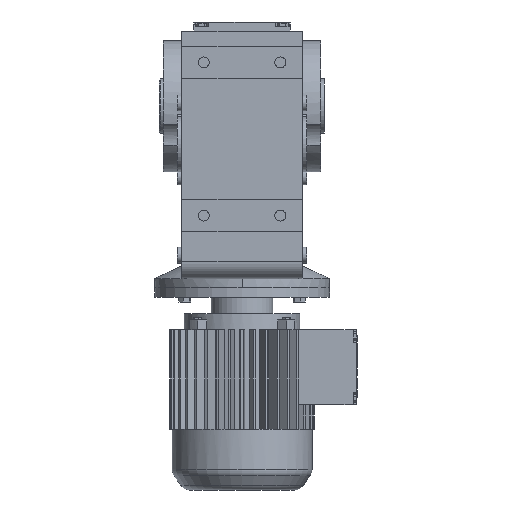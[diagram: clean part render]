
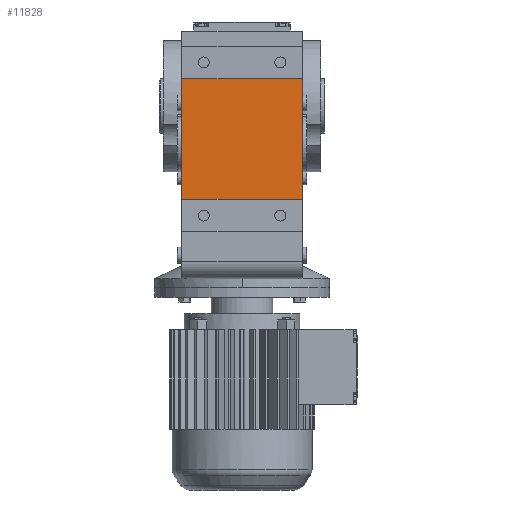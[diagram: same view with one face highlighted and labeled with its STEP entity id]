
A CAD part, front view. The second image highlights one B-rep face of the part: STEP entity #11828.
In plain terms, the highlighted planar face has unit normal (0, -1, 0).
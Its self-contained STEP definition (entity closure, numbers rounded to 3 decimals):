
#2112 = PLANE('',#2113);
#2113 = AXIS2_PLACEMENT_3D('',#2114,#2115,#2116);
#2114 = CARTESIAN_POINT('',(-55.,-92.08,-141.7));
#2115 = DIRECTION('',(-1.,0.,0.));
#2116 = DIRECTION('',(0.,0.,1.));
#4840 = VERTEX_POINT('',#4841);
#4841 = CARTESIAN_POINT('',(-55.,-108.08,-85.));
#4855 = PLANE('',#4856);
#4856 = AXIS2_PLACEMENT_3D('',#4857,#4858,#4859);
#4857 = CARTESIAN_POINT('',(-55.,-108.08,-85.));
#4858 = DIRECTION('',(0.,0.,1.));
#4859 = DIRECTION('',(1.,0.,0.));
#4867 = EDGE_CURVE('',#4868,#4840,#4870,.T.);
#4868 = VERTEX_POINT('',#4869);
#4869 = CARTESIAN_POINT('',(-55.,-108.08,25.));
#4870 = SURFACE_CURVE('',#4871,(#4875,#4882),.PCURVE_S1.);
#4871 = LINE('',#4872,#4873);
#4872 = CARTESIAN_POINT('',(-55.,-108.08,25.));
#4873 = VECTOR('',#4874,1.);
#4874 = DIRECTION('',(0.,0.,-1.));
#4875 = PCURVE('',#2112,#4876);
#4876 = DEFINITIONAL_REPRESENTATION('',(#4877),#4881);
#4877 = LINE('',#4878,#4879);
#4878 = CARTESIAN_POINT('',(166.7,-16.));
#4879 = VECTOR('',#4880,1.);
#4880 = DIRECTION('',(-1.,0.));
#4881 = ( GEOMETRIC_REPRESENTATION_CONTEXT(2) 
PARAMETRIC_REPRESENTATION_CONTEXT() REPRESENTATION_CONTEXT('2D SPACE',''
  ) );
#4882 = PCURVE('',#4883,#4888);
#4883 = PLANE('',#4884);
#4884 = AXIS2_PLACEMENT_3D('',#4885,#4886,#4887);
#4885 = CARTESIAN_POINT('',(-55.,-108.08,25.));
#4886 = DIRECTION('',(0.,-1.,0.));
#4887 = DIRECTION('',(0.,0.,-1.));
#4888 = DEFINITIONAL_REPRESENTATION('',(#4889),#4893);
#4889 = LINE('',#4890,#4891);
#4890 = CARTESIAN_POINT('',(0.,0.));
#4891 = VECTOR('',#4892,1.);
#4892 = DIRECTION('',(1.,0.));
#4893 = ( GEOMETRIC_REPRESENTATION_CONTEXT(2) 
PARAMETRIC_REPRESENTATION_CONTEXT() REPRESENTATION_CONTEXT('2D SPACE',''
  ) );
#4911 = PLANE('',#4912);
#4912 = AXIS2_PLACEMENT_3D('',#4913,#4914,#4915);
#4913 = CARTESIAN_POINT('',(-55.,-108.08,25.));
#4914 = DIRECTION('',(0.,0.,-1.));
#4915 = DIRECTION('',(-1.,0.,0.));
#10088 = PLANE('',#10089);
#10089 = AXIS2_PLACEMENT_3D('',#10090,#10091,#10092);
#10090 = CARTESIAN_POINT('',(55.,-92.08,-141.7));
#10091 = DIRECTION('',(-1.,0.,0.));
#10092 = DIRECTION('',(0.,0.,1.));
#11221 = VERTEX_POINT('',#11222);
#11222 = CARTESIAN_POINT('',(55.,-108.08,-85.));
#11243 = EDGE_CURVE('',#4840,#11221,#11244,.T.);
#11244 = SURFACE_CURVE('',#11245,(#11249,#11256),.PCURVE_S1.);
#11245 = LINE('',#11246,#11247);
#11246 = CARTESIAN_POINT('',(-55.,-108.08,-85.));
#11247 = VECTOR('',#11248,1.);
#11248 = DIRECTION('',(1.,0.,0.));
#11249 = PCURVE('',#4855,#11250);
#11250 = DEFINITIONAL_REPRESENTATION('',(#11251),#11255);
#11251 = LINE('',#11252,#11253);
#11252 = CARTESIAN_POINT('',(0.,0.));
#11253 = VECTOR('',#11254,1.);
#11254 = DIRECTION('',(1.,0.));
#11255 = ( GEOMETRIC_REPRESENTATION_CONTEXT(2) 
PARAMETRIC_REPRESENTATION_CONTEXT() REPRESENTATION_CONTEXT('2D SPACE',''
  ) );
#11256 = PCURVE('',#4883,#11257);
#11257 = DEFINITIONAL_REPRESENTATION('',(#11258),#11262);
#11258 = LINE('',#11259,#11260);
#11259 = CARTESIAN_POINT('',(110.,0.));
#11260 = VECTOR('',#11261,1.);
#11261 = DIRECTION('',(0.,1.));
#11262 = ( GEOMETRIC_REPRESENTATION_CONTEXT(2) 
PARAMETRIC_REPRESENTATION_CONTEXT() REPRESENTATION_CONTEXT('2D SPACE',''
  ) );
#11618 = EDGE_CURVE('',#4868,#11619,#11621,.T.);
#11619 = VERTEX_POINT('',#11620);
#11620 = CARTESIAN_POINT('',(55.,-108.08,25.));
#11621 = SURFACE_CURVE('',#11622,(#11626,#11633),.PCURVE_S1.);
#11622 = LINE('',#11623,#11624);
#11623 = CARTESIAN_POINT('',(-55.,-108.08,25.));
#11624 = VECTOR('',#11625,1.);
#11625 = DIRECTION('',(1.,0.,0.));
#11626 = PCURVE('',#4911,#11627);
#11627 = DEFINITIONAL_REPRESENTATION('',(#11628),#11632);
#11628 = LINE('',#11629,#11630);
#11629 = CARTESIAN_POINT('',(0.,0.));
#11630 = VECTOR('',#11631,1.);
#11631 = DIRECTION('',(-1.,0.));
#11632 = ( GEOMETRIC_REPRESENTATION_CONTEXT(2) 
PARAMETRIC_REPRESENTATION_CONTEXT() REPRESENTATION_CONTEXT('2D SPACE',''
  ) );
#11633 = PCURVE('',#4883,#11634);
#11634 = DEFINITIONAL_REPRESENTATION('',(#11635),#11639);
#11635 = LINE('',#11636,#11637);
#11636 = CARTESIAN_POINT('',(0.,0.));
#11637 = VECTOR('',#11638,1.);
#11638 = DIRECTION('',(0.,1.));
#11639 = ( GEOMETRIC_REPRESENTATION_CONTEXT(2) 
PARAMETRIC_REPRESENTATION_CONTEXT() REPRESENTATION_CONTEXT('2D SPACE',''
  ) );
#11828 = ADVANCED_FACE('',(#11829),#4883,.T.);
#11829 = FACE_BOUND('',#11830,.T.);
#11830 = EDGE_LOOP('',(#11831,#11832,#11853,#11854));
#11831 = ORIENTED_EDGE('',*,*,#11243,.T.);
#11832 = ORIENTED_EDGE('',*,*,#11833,.F.);
#11833 = EDGE_CURVE('',#11619,#11221,#11834,.T.);
#11834 = SURFACE_CURVE('',#11835,(#11839,#11846),.PCURVE_S1.);
#11835 = LINE('',#11836,#11837);
#11836 = CARTESIAN_POINT('',(55.,-108.08,25.));
#11837 = VECTOR('',#11838,1.);
#11838 = DIRECTION('',(0.,0.,-1.));
#11839 = PCURVE('',#4883,#11840);
#11840 = DEFINITIONAL_REPRESENTATION('',(#11841),#11845);
#11841 = LINE('',#11842,#11843);
#11842 = CARTESIAN_POINT('',(0.,110.));
#11843 = VECTOR('',#11844,1.);
#11844 = DIRECTION('',(1.,0.));
#11845 = ( GEOMETRIC_REPRESENTATION_CONTEXT(2) 
PARAMETRIC_REPRESENTATION_CONTEXT() REPRESENTATION_CONTEXT('2D SPACE',''
  ) );
#11846 = PCURVE('',#10088,#11847);
#11847 = DEFINITIONAL_REPRESENTATION('',(#11848),#11852);
#11848 = LINE('',#11849,#11850);
#11849 = CARTESIAN_POINT('',(166.7,-16.));
#11850 = VECTOR('',#11851,1.);
#11851 = DIRECTION('',(-1.,0.));
#11852 = ( GEOMETRIC_REPRESENTATION_CONTEXT(2) 
PARAMETRIC_REPRESENTATION_CONTEXT() REPRESENTATION_CONTEXT('2D SPACE',''
  ) );
#11853 = ORIENTED_EDGE('',*,*,#11618,.F.);
#11854 = ORIENTED_EDGE('',*,*,#4867,.T.);
